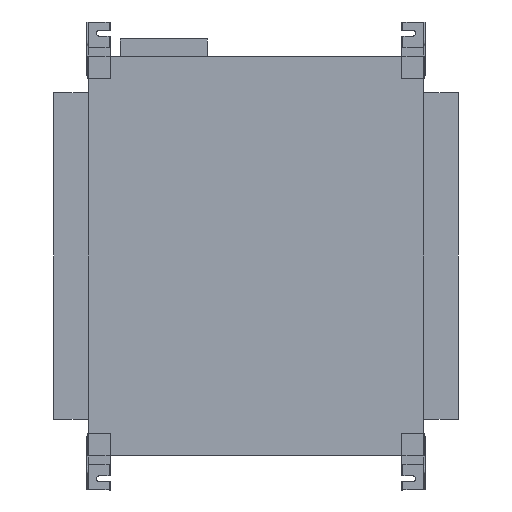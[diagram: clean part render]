
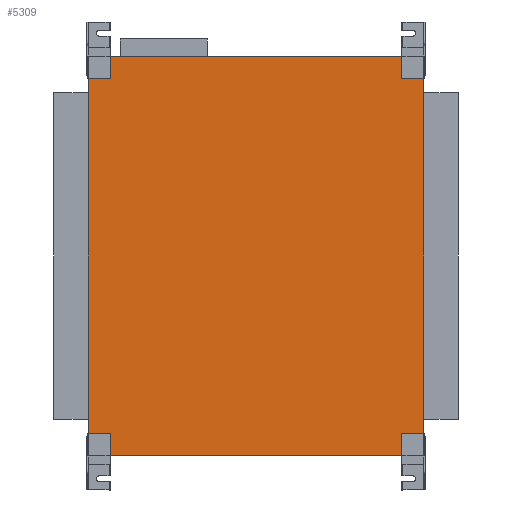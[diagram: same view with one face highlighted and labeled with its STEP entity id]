
A CAD part, front view. The second image highlights one B-rep face of the part: STEP entity #5309.
In plain terms, the highlighted planar face has unit normal (0, -1, 0).
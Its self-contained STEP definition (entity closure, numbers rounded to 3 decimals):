
#149 = EDGE_CURVE ( 'NONE', #1665, #6879, #5327, .T. ) ;
#318 = ORIENTED_EDGE ( 'NONE', *, *, #4820, .F. ) ;
#380 = DIRECTION ( 'NONE',  ( 1., 0., 0. ) ) ;
#606 = EDGE_CURVE ( 'NONE', #6906, #930, #4744, .T. ) ;
#675 = DIRECTION ( 'NONE',  ( 0., 0., 1. ) ) ;
#874 = EDGE_CURVE ( 'NONE', #6758, #6906, #2951, .T. ) ;
#930 = VERTEX_POINT ( 'NONE', #3632 ) ;
#932 = ORIENTED_EDGE ( 'NONE', *, *, #149, .T. ) ;
#968 = VECTOR ( 'NONE', #5320, 1000. ) ;
#1002 = ORIENTED_EDGE ( 'NONE', *, *, #606, .F. ) ;
#1065 = VECTOR ( 'NONE', #7055, 1000. ) ;
#1129 = CARTESIAN_POINT ( 'NONE',  ( 384.5, -204.5, -457. ) ) ;
#1251 = EDGE_CURVE ( 'NONE', #930, #3303, #2754, .T. ) ;
#1268 = EDGE_CURVE ( 'NONE', #2244, #1984, #6378, .T. ) ;
#1307 = ORIENTED_EDGE ( 'NONE', *, *, #5683, .F. ) ;
#1328 = CARTESIAN_POINT ( 'NONE',  ( -384.5, -204.5, -457. ) ) ;
#1350 = VECTOR ( 'NONE', #6837, 1000. ) ;
#1435 = ORIENTED_EDGE ( 'NONE', *, *, #4110, .T. ) ;
#1500 = AXIS2_PLACEMENT_3D ( 'NONE', #4710, #7109, #675 ) ;
#1535 = CARTESIAN_POINT ( 'NONE',  ( -334.5, -204.5, -457. ) ) ;
#1581 = VECTOR ( 'NONE', #2926, 1000. ) ;
#1593 = VECTOR ( 'NONE', #4056, 1000. ) ;
#1646 = CARTESIAN_POINT ( 'NONE',  ( -384.5, -204.5, 457. ) ) ;
#1665 = VERTEX_POINT ( 'NONE', #6225 ) ;
#1731 = CARTESIAN_POINT ( 'NONE',  ( -384.5, -204.5, -457. ) ) ;
#1784 = EDGE_LOOP ( 'NONE', ( #1435, #1889, #932, #4869, #6671, #1002, #2062, #1307, #318, #7408, #3712, #2208 ) ) ;
#1889 = ORIENTED_EDGE ( 'NONE', *, *, #6588, .T. ) ;
#1984 = VERTEX_POINT ( 'NONE', #5481 ) ;
#2050 = LINE ( 'NONE', #7357, #7129 ) ;
#2062 = ORIENTED_EDGE ( 'NONE', *, *, #874, .F. ) ;
#2170 = VERTEX_POINT ( 'NONE', #4116 ) ;
#2208 = ORIENTED_EDGE ( 'NONE', *, *, #1268, .F. ) ;
#2244 = VERTEX_POINT ( 'NONE', #6759 ) ;
#2332 = CARTESIAN_POINT ( 'NONE',  ( -384.5, -204.5, 457. ) ) ;
#2737 = CARTESIAN_POINT ( 'NONE',  ( -384.5, -204.5, -457. ) ) ;
#2754 = LINE ( 'NONE', #5151, #1593 ) ;
#2822 = VECTOR ( 'NONE', #5278, 1000. ) ;
#2926 = DIRECTION ( 'NONE',  ( 1., 0., 0. ) ) ;
#2951 = LINE ( 'NONE', #6918, #2822 ) ;
#2974 = VECTOR ( 'NONE', #3564, 1000. ) ;
#3007 = CARTESIAN_POINT ( 'NONE',  ( 384.5, -204.5, -407. ) ) ;
#3088 = LINE ( 'NONE', #4728, #7492 ) ;
#3192 = LINE ( 'NONE', #6213, #5016 ) ;
#3228 = EDGE_CURVE ( 'NONE', #5658, #7262, #5951, .T. ) ;
#3303 = VERTEX_POINT ( 'NONE', #3007 ) ;
#3564 = DIRECTION ( 'NONE',  ( 1., 0., 0. ) ) ;
#3632 = CARTESIAN_POINT ( 'NONE',  ( 384.5, -204.5, 407. ) ) ;
#3712 = ORIENTED_EDGE ( 'NONE', *, *, #7491, .T. ) ;
#3851 = LINE ( 'NONE', #2737, #7110 ) ;
#3986 = CARTESIAN_POINT ( 'NONE',  ( 384.5, -204.5, 457. ) ) ;
#3993 = DIRECTION ( 'NONE',  ( 1., 0., 0. ) ) ;
#4056 = DIRECTION ( 'NONE',  ( 0., 0., -1. ) ) ;
#4110 = EDGE_CURVE ( 'NONE', #2244, #4817, #3851, .T. ) ;
#4116 = CARTESIAN_POINT ( 'NONE',  ( -334.5, -204.5, 457. ) ) ;
#4558 = LINE ( 'NONE', #1646, #6520 ) ;
#4710 = CARTESIAN_POINT ( 'NONE',  ( -384.5, -204.5, 457. ) ) ;
#4728 = CARTESIAN_POINT ( 'NONE',  ( -384.5, -204.5, 457. ) ) ;
#4744 = LINE ( 'NONE', #6354, #968 ) ;
#4817 = VERTEX_POINT ( 'NONE', #1535 ) ;
#4820 = EDGE_CURVE ( 'NONE', #5658, #2170, #3192, .T. ) ;
#4842 = DIRECTION ( 'NONE',  ( 0., 0., -1. ) ) ;
#4869 = ORIENTED_EDGE ( 'NONE', *, *, #7545, .F. ) ;
#5016 = VECTOR ( 'NONE', #380, 1000. ) ;
#5151 = CARTESIAN_POINT ( 'NONE',  ( 384.5, -204.5, 457. ) ) ;
#5278 = DIRECTION ( 'NONE',  ( 1., 0., 0. ) ) ;
#5302 = CARTESIAN_POINT ( 'NONE',  ( -384.5, -204.5, 457. ) ) ;
#5309 = ADVANCED_FACE ( 'NONE', ( #5899 ), #7572, .F. ) ;
#5320 = DIRECTION ( 'NONE',  ( 0., 0., -1. ) ) ;
#5327 = LINE ( 'NONE', #1731, #1581 ) ;
#5481 = CARTESIAN_POINT ( 'NONE',  ( -384.5, -204.5, -407. ) ) ;
#5577 = CARTESIAN_POINT ( 'NONE',  ( 334.5, -204.5, 457. ) ) ;
#5633 = CARTESIAN_POINT ( 'NONE',  ( -384.5, -204.5, 457. ) ) ;
#5658 = VERTEX_POINT ( 'NONE', #5633 ) ;
#5683 = EDGE_CURVE ( 'NONE', #2170, #6758, #4558, .T. ) ;
#5717 = CARTESIAN_POINT ( 'NONE',  ( -384.5, -204.5, 407. ) ) ;
#5899 = FACE_OUTER_BOUND ( 'NONE', #1784, .T. ) ;
#5951 = LINE ( 'NONE', #5302, #1065 ) ;
#6171 = DIRECTION ( 'NONE',  ( 1., 0., 0. ) ) ;
#6213 = CARTESIAN_POINT ( 'NONE',  ( -384.5, -204.5, 457. ) ) ;
#6225 = CARTESIAN_POINT ( 'NONE',  ( 334.5, -204.5, -457. ) ) ;
#6354 = CARTESIAN_POINT ( 'NONE',  ( 384.5, -204.5, 457. ) ) ;
#6378 = LINE ( 'NONE', #2332, #1350 ) ;
#6520 = VECTOR ( 'NONE', #3993, 1000. ) ;
#6588 = EDGE_CURVE ( 'NONE', #4817, #1665, #6612, .T. ) ;
#6612 = LINE ( 'NONE', #1328, #2974 ) ;
#6671 = ORIENTED_EDGE ( 'NONE', *, *, #1251, .F. ) ;
#6758 = VERTEX_POINT ( 'NONE', #5577 ) ;
#6759 = CARTESIAN_POINT ( 'NONE',  ( -384.5, -204.5, -457. ) ) ;
#6837 = DIRECTION ( 'NONE',  ( 0., 0., 1. ) ) ;
#6879 = VERTEX_POINT ( 'NONE', #1129 ) ;
#6906 = VERTEX_POINT ( 'NONE', #3986 ) ;
#6918 = CARTESIAN_POINT ( 'NONE',  ( -384.5, -204.5, 457. ) ) ;
#7055 = DIRECTION ( 'NONE',  ( 0., 0., -1. ) ) ;
#7109 = DIRECTION ( 'NONE',  ( 0., 1., 0. ) ) ;
#7110 = VECTOR ( 'NONE', #6171, 1000. ) ;
#7129 = VECTOR ( 'NONE', #7209, 1000. ) ;
#7209 = DIRECTION ( 'NONE',  ( 0., 0., -1. ) ) ;
#7262 = VERTEX_POINT ( 'NONE', #5717 ) ;
#7357 = CARTESIAN_POINT ( 'NONE',  ( 384.5, -204.5, 457. ) ) ;
#7408 = ORIENTED_EDGE ( 'NONE', *, *, #3228, .T. ) ;
#7491 = EDGE_CURVE ( 'NONE', #7262, #1984, #3088, .T. ) ;
#7492 = VECTOR ( 'NONE', #4842, 1000. ) ;
#7545 = EDGE_CURVE ( 'NONE', #3303, #6879, #2050, .T. ) ;
#7572 = PLANE ( 'NONE',  #1500 ) ;
